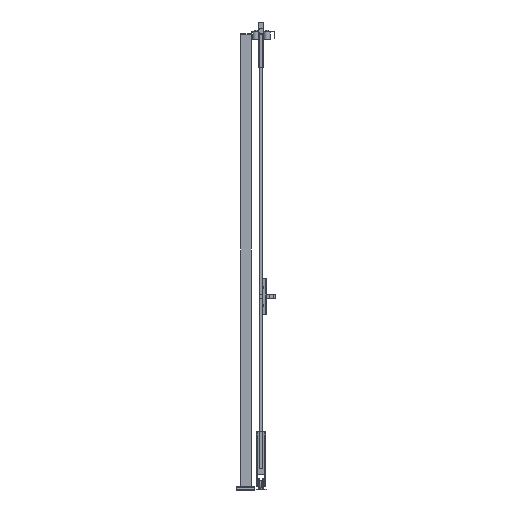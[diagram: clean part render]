
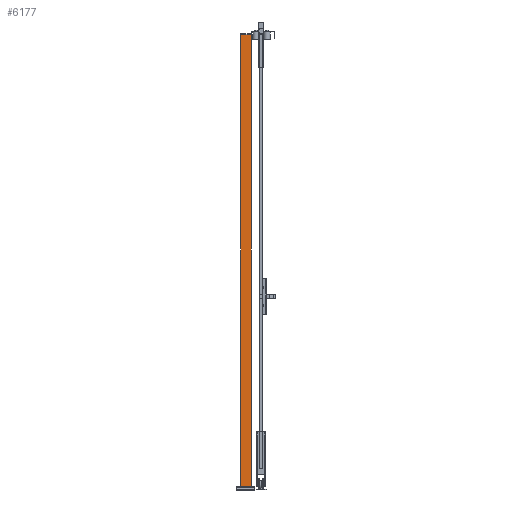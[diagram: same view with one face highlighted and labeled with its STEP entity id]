
A CAD part, left-side view. The second image highlights one B-rep face of the part: STEP entity #6177.
In plain terms, the highlighted planar face has unit normal (-1, 0, 0) as drawn and (0, 1, 0) by its records, which use the part's own axes.
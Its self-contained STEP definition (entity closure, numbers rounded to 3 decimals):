
#659=FACE_OUTER_BOUND('',#1099,.T.);
#1099=EDGE_LOOP('',(#3789,#3790,#3791,#3792));
#1600=VERTEX_POINT('',#12471);
#1601=VERTEX_POINT('',#12473);
#1603=VERTEX_POINT('',#12479);
#1606=VERTEX_POINT('',#12484);
#2500=EDGE_CURVE('',#1600,#1601,#7125,.T.);
#2506=EDGE_CURVE('',#1606,#1603,#7131,.T.);
#2509=EDGE_CURVE('',#1601,#1606,#7134,.T.);
#2510=EDGE_CURVE('',#1600,#1603,#7135,.T.);
#3789=ORIENTED_EDGE('',*,*,#2510,.T.);
#3790=ORIENTED_EDGE('',*,*,#2506,.F.);
#3791=ORIENTED_EDGE('',*,*,#2509,.F.);
#3792=ORIENTED_EDGE('',*,*,#2500,.F.);
#5805=PLANE('',#9006);
#6177=ADVANCED_FACE('',(#659),#5805,.F.);
#7125=LINE('',#12474,#8126);
#7131=LINE('',#12486,#8132);
#7134=LINE('',#12491,#8135);
#7135=LINE('',#12493,#8136);
#8126=VECTOR('',#9902,1.);
#8132=VECTOR('',#9910,1.);
#8135=VECTOR('',#9917,1.);
#8136=VECTOR('',#9920,1.);
#9006=AXIS2_PLACEMENT_3D('',#12492,#9918,#9919);
#9902=DIRECTION('',(-1.,0.,0.));
#9910=DIRECTION('',(1.,0.,0.));
#9917=DIRECTION('',(0.,0.,-1.));
#9918=DIRECTION('center_axis',(0.,-1.,0.));
#9919=DIRECTION('ref_axis',(0.,0.,-1.));
#9920=DIRECTION('',(0.,0.,-1.));
#12471=CARTESIAN_POINT('',(30.,30.,2520.));
#12473=CARTESIAN_POINT('',(-30.,30.,2520.));
#12474=CARTESIAN_POINT('',(0.,30.,2520.));
#12479=CARTESIAN_POINT('',(30.,30.,20.));
#12484=CARTESIAN_POINT('',(-30.,30.,20.));
#12486=CARTESIAN_POINT('',(0.,30.,20.));
#12491=CARTESIAN_POINT('',(-30.,30.,1270.));
#12492=CARTESIAN_POINT('Origin',(0.,30.,
1270.));
#12493=CARTESIAN_POINT('',(30.,30.,1270.));
